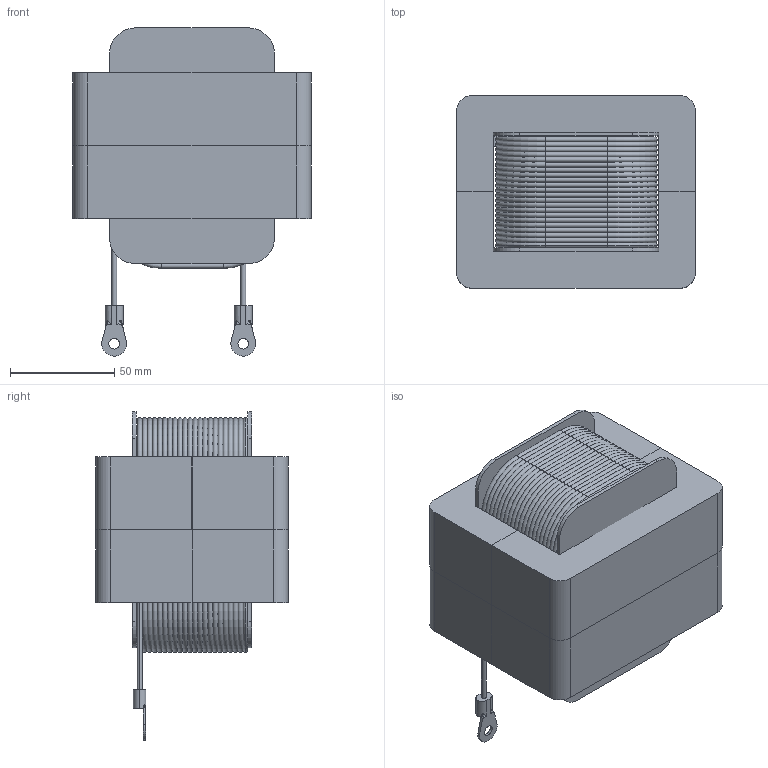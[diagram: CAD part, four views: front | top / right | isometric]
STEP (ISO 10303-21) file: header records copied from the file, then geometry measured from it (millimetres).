
FILE_DESCRIPTION (( 'STEP AP214' ), '1' );
FILE_NAME ('HCS-143M-30A.STEP', '2020-08-08T21:25:33', ( '' ), ( '' ), 'SwSTEP 2.0', 'SolidWorks 2015', '' );
FILE_SCHEMA (( 'AUTOMOTIVE_DESIGN' ));
Length unit declared in the file: inch
Products named in the file (1): HCS-143M-30A
Bounding box: 114.3 x 92.35 x 157.35 mm (x, y, z)
Surface area: 98595.4 mm2 (no closed solid volume)
Topology: 0 solids, 7 shells, 296 faces, 763 edges, 467 vertices
Faces by surface type: cylinder 133, torus 107, plane 42, bspline 14
Entity records: 13539 total; most frequent: CARTESIAN_POINT 2543, DIRECTION 1647, ORIENTED_EDGE 1337, EDGE_CURVE 756, AXIS2_PLACEMENT_3D 681, VERTEX_POINT 467, CIRCLE 398, EDGE_LOOP 306
